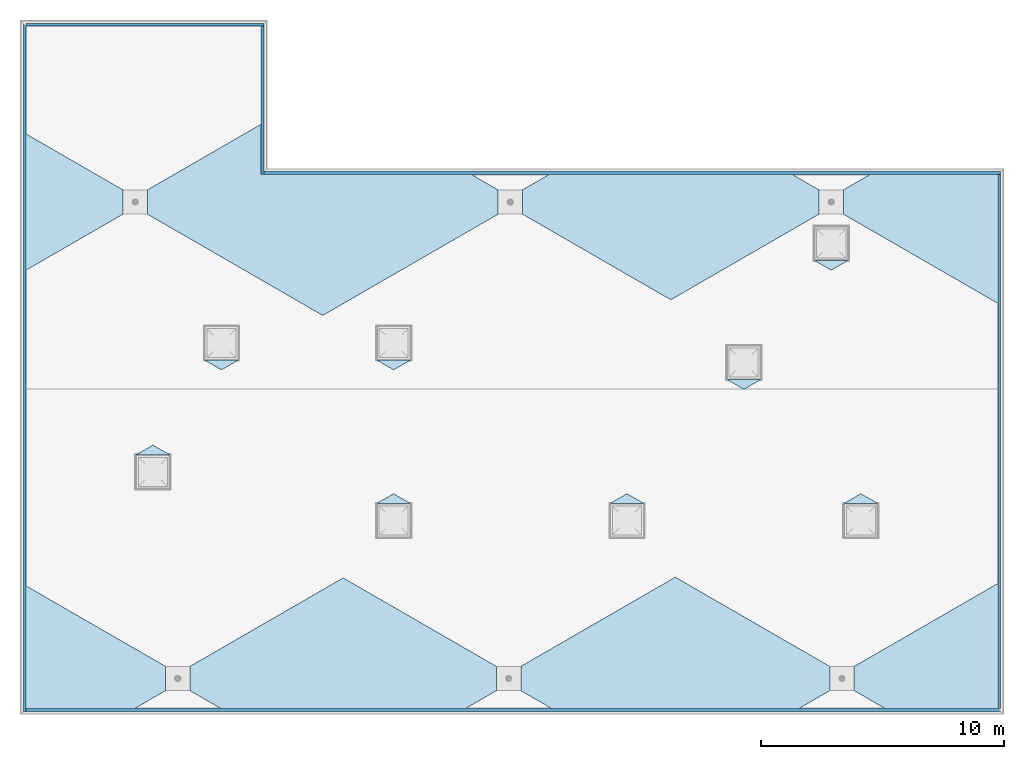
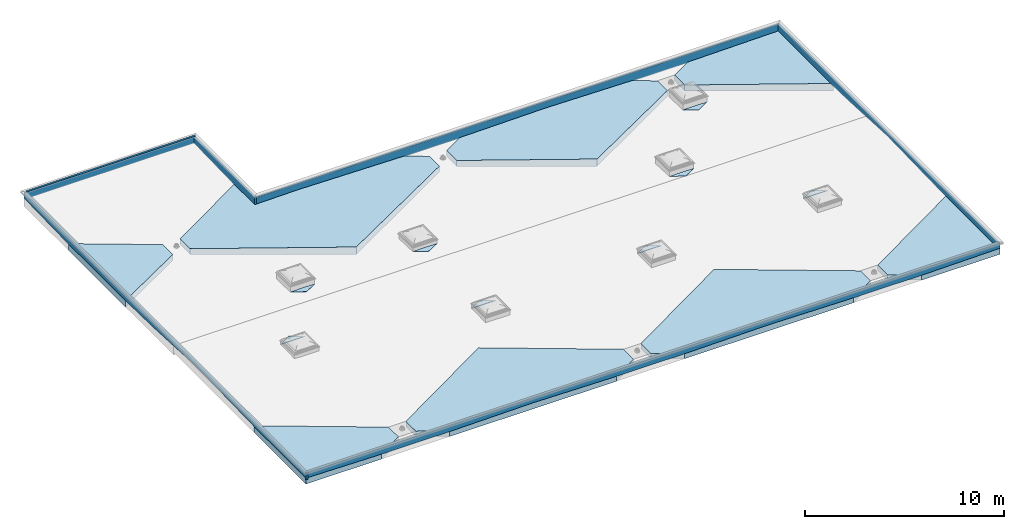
# One storey, part 1 of 5: 16 roofs, 6 walls, 6 openings.
"""IFC2X3 building model written with IfcOpenShell, lengths in millimetres."""

from ifc_helpers import new_model, entity, si_unit, converted_unit, derived_unit, direction, frame, frame_2d, origin, place, context, subcontext, project, spatial, polyline, rectangle, outline, extrude, clip, halfspace, faceted_brep, material, layer, layer_set, layer_usage, type_object, element, save


model = new_model("IFC2X3")

# Units and contexts
model_context = context("Model", 3, precision=0.01, world=origin(), true_north=direction((6.12303176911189e-17, 1.0)))
body_context = subcontext(model_context, "Body", "Model", "MODEL_VIEW")
ifc_project = project(units=[si_unit("LENGTHUNIT", "METRE", prefix="MILLI"), si_unit("AREAUNIT", "SQUARE_METRE"), si_unit("VOLUMEUNIT", "CUBIC_METRE"), converted_unit("PLANEANGLEUNIT", "DEGREE", entity("IfcRatioMeasure", 0.0174532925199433), si_unit("PLANEANGLEUNIT", "RADIAN"), dimensions=[0, 0, 0, 0, 0, 0, 0]), si_unit("MASSUNIT", "GRAM", prefix="KILO"), derived_unit("MASSDENSITYUNIT", [(si_unit("MASSUNIT", "GRAM", prefix="KILO"), 1), (si_unit("LENGTHUNIT", "METRE"), -3)]), si_unit("TIMEUNIT", "SECOND"), si_unit("FREQUENCYUNIT", "HERTZ"), si_unit("THERMODYNAMICTEMPERATUREUNIT", "DEGREE_CELSIUS"), derived_unit("THERMALTRANSMITTANCEUNIT", [(si_unit("MASSUNIT", "GRAM", prefix="KILO"), 1), (si_unit("THERMODYNAMICTEMPERATUREUNIT", "KELVIN"), -1), (si_unit("TIMEUNIT", "SECOND"), -3)]), derived_unit("VOLUMETRICFLOWRATEUNIT", [(si_unit("LENGTHUNIT", "METRE"), 3), (si_unit("TIMEUNIT", "SECOND"), -1)]), si_unit("ELECTRICCURRENTUNIT", "AMPERE"), si_unit("ELECTRICVOLTAGEUNIT", "VOLT"), si_unit("POWERUNIT", "WATT"), si_unit("FORCEUNIT", "NEWTON", prefix="KILO"), si_unit("ILLUMINANCEUNIT", "LUX"), si_unit("LUMINOUSFLUXUNIT", "LUMEN"), si_unit("LUMINOUSINTENSITYUNIT", "CANDELA"), derived_unit("USERDEFINED", [(si_unit("MASSUNIT", "GRAM", prefix="KILO"), -1), (si_unit("LENGTHUNIT", "METRE"), -2), (si_unit("TIMEUNIT", "SECOND"), 3), (si_unit("LUMINOUSFLUXUNIT", "LUMEN"), 1)]), derived_unit("LINEARVELOCITYUNIT", [(si_unit("LENGTHUNIT", "METRE"), 1), (si_unit("TIMEUNIT", "SECOND"), -1)]), si_unit("PRESSUREUNIT", "PASCAL"), derived_unit("USERDEFINED", [(si_unit("LENGTHUNIT", "METRE"), -2), (si_unit("MASSUNIT", "GRAM", prefix="KILO"), 1), (si_unit("TIMEUNIT", "SECOND"), -2)])], contexts=[model_context])

# Site, building, storey
site_placement = place(None, origin())
site = spatial("IfcSite", under=ifc_project, at=site_placement, Name="Default", CompositionType="ELEMENT")
building_placement = place(site_placement, origin())
building = spatial("IfcBuilding", under=site, at=building_placement, CompositionType="ELEMENT")
storey_placement = place(building_placement, frame((0.0, 0.0, 8000.0)))
storey = spatial("IfcBuildingStorey", under=building, at=storey_placement, Name="KATUS", CompositionType="ELEMENT", Elevation=8000.0)

# Wall, opening
ifc_material_1 = material(Name="pvc-katusekate")
ifc_layer_1 = layer(ifc_material_1, 5.0)
ifc_material_2 = material(Name="vineer niiskuskindel")
ifc_layer_2 = layer(ifc_material_2, 10.0)
ifc_material_3 = material(Name="EST. Sügavimmutatud puitroov. parapetid")
ifc_layer_3 = layer(ifc_material_3, 100.0)
ifc_layer_set = layer_set([ifc_layer_1, ifc_layer_2, ifc_layer_3], Name="Basic Wall:parapetid-B_roov100+vineer10")
ifc_layer_usage_1 = layer_usage(ifc_layer_set, "AXIS2", "POSITIVE", -57.5)
wall_type = type_object("IfcWallType", Name="Basic Wall:parapetid-B_roov100+vineer10", PredefinedType="STANDARD", material=ifc_layer_set)
wall_1_placement = place(storey_placement, frame((-292.499999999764, -350.0, 252.291072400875), z_axis=(0.0, 0.0, 1.0), x_axis=(0.0, 1.0, 0.0)))
wall_1 = element("IfcWallStandardCase", 1, at=wall_1_placement, inside=storey, type_object=wall_type, material=ifc_layer_usage_1, Name="Basic Wall:parapetid-B_roov100+vineer10", ObjectType="Basic Wall:parapetid-B_roov100+vineer10", context=body_context, shape_type="Clipping", body=[
    clip(clip(extrude(rectangle(XDim=28299.9994344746, YDim=115.0, at=frame_2d((14149.9997172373, -1.06581410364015e-14), x_axis=(-1.0, 0.0))), origin(), (0.0, 0.0, 1.0), 501.162816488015), halfspace(frame((0.0, -57.5, 447.708927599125), z_axis=(0.0, 0.0, 1.0), x_axis=(0.0, 1.0, 0.0)), False)), halfspace(frame((28299.9994344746, -57.5, 99.1457600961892), z_axis=(0.0249921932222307, 0.0, -0.999687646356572), x_axis=(0.0, 1.0, 0.0)), False)),
])
opening_1_placement = place(wall_1_placement, origin())
element("IfcOpeningElement", 2, at=opening_1_placement, cuts=wall_1, Name="Basic Wall:parapetid-B_roov100+vineer10", ObjectType="Opening", context=body_context, shape_type="SweptSolid", body=[
    extrude(outline(polyline([(-18.2859540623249, -8098.19364237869), (89.8979837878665, -8098.19364237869), (89.8979837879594, 9402.65765838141), (27.1393778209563, 6892.31341968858), (-170.363437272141, 2992.25776754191), (-18.2859540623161, -3090.84156085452), (-18.2859540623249, -8098.19364237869)])), frame((8155.69364237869, 57.4999999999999, 89.8979837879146), z_axis=(0.0, -1.0, 0.0), x_axis=(0.0, 0.0, -1.0)), (0.0, 0.0, 1.0), 115.0),
])

# Wall, openings
ifc_layer_usage_2 = layer_usage(ifc_layer_set, "AXIS2", "NEGATIVE", 57.5)
wall_2_placement = place(storey_placement, frame((-235.0, -292.499999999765, 297.586058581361)))
wall_2 = element("IfcWallStandardCase", 3, at=wall_2_placement, inside=storey, type_object=wall_type, material=ifc_layer_usage_2, Name="Basic Wall:parapetid-B_roov100+vineer10", ObjectType="Basic Wall:parapetid-B_roov100+vineer10", context=body_context, shape_type="Clipping", body=[
    clip(clip(clip(extrude(rectangle(XDim=40084.9999833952, YDim=115.0, at=frame_2d((20042.4999916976, -2.48689957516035e-14), x_axis=(-1.0, 0.0))), origin(), (0.0, 0.0, 1.0), 455.867830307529), halfspace(frame((0.0, -57.5, 402.413941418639), z_axis=(0.0, 0.0, 1.0), x_axis=(0.0, 1.0, 0.0)), False)), halfspace(frame((40085.0, -57.5, 70.8421873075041), z_axis=(0.0146451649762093, 0.0, -0.999892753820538), x_axis=(0.0, 1.0, 0.0)), False)), halfspace(frame((4535.0, -57.5, 0.0), z_axis=(-0.0142382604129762, 0.0, -0.999898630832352), x_axis=(0.0, 1.0, 0.0)), False)),
])
opening_2_placement = place(wall_2_placement, origin())
element("IfcOpeningElement", 4, at=opening_2_placement, cuts=wall_2, Name="Basic Wall:parapetid-B_roov100+vineer10", ObjectType="Opening", context=body_context, shape_type="SweptSolid", body=[
    extrude(outline(polyline([(-5162.15256840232, -49.4510402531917), (10.8824537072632, -49.4510402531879), (5151.27011469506, 98.9020805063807), (-5162.15256840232, -49.4510402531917)])), frame((26712.6701534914, 57.5, 24.8012235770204), z_axis=(0.0, -1.0, 0.0), x_axis=(-0.99989655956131, 0.0, 0.014382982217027)), (0.0, 0.0, 1.0), 115.0),
])
opening_3_placement = place(wall_2_placement, origin())
element("IfcOpeningElement", 5, at=opening_3_placement, cuts=wall_2, Name="Basic Wall:parapetid-B_roov100+vineer10", ObjectType="Opening", context=body_context, shape_type="SweptSolid", body=[
    extrude(outline(polyline([(-5116.38891380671, -49.5889663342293), (1.28442557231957, -49.5889663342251), (5115.10448823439, 99.1779326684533), (-5116.38891380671, -49.5889663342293)])), frame((13040.5632594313, 57.5, 24.8011994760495), z_axis=(0.0, -1.0, 0.0), x_axis=(-0.999894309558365, 0.0, 0.0145385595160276)), (0.0, 0.0, 1.0), 115.0),
])

# Walls
ifc_layer_usage_3 = layer_usage(ifc_layer_set, "AXIS2", "NEGATIVE", 57.5)
wall_3_placement = place(storey_placement, frame((9550.0, 27892.4994344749, 348.561832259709), z_axis=(0.0, 0.0, 1.0), x_axis=(-1.0, 0.0, 0.0)))
element("IfcWallStandardCase", 6, at=wall_3_placement, inside=storey, type_object=wall_type, material=ifc_layer_usage_3, Name="Basic Wall:parapetid-B_roov100+vineer10", ObjectType="Basic Wall:parapetid-B_roov100+vineer10", context=body_context, shape_type="SweptSolid", body=[
    extrude(rectangle(XDim=9784.9999999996, YDim=115.0, at=frame_2d((4892.4999999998, 5.04485342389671e-13), x_axis=(-1.0, 0.0))), origin(), (0.0, 0.0, 1.0), 404.892056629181),
])
ifc_layer_usage_4 = layer_usage(ifc_layer_set, "AXIS2", "POSITIVE", -57.5)
wall_4_placement = place(storey_placement, frame((9492.49999999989, 27834.9994344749, 230.174469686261), z_axis=(0.0, 0.0, 1.0), x_axis=(0.0, -1.0, 0.0)))
element("IfcWallStandardCase", 7, at=wall_4_placement, inside=storey, type_object=wall_type, material=ifc_layer_usage_4, Name="Basic Wall:parapetid-B_roov100+vineer10", ObjectType="Basic Wall:parapetid-B_roov100+vineer10", context=body_context, shape_type="Clipping", body=[
    clip(clip(extrude(rectangle(XDim=6099.9994344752, YDim=115.0, at=frame_2d((3049.9997172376, 2.23820961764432e-13), x_axis=(-1.0, 0.0))), origin(), (0.0, 0.0, 1.0), 523.279419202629), halfspace(frame((0.0, -57.5, 469.825530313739), z_axis=(0.0, 0.0, 1.0), x_axis=(0.0, 1.0, 0.0)), False)), halfspace(frame((4727.52089077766, -57.5, 0.0), z_axis=(-0.0249921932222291, 0.0, -0.999687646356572), x_axis=(0.0, 1.0, 0.0)), False)),
])

# Wall, openings
ifc_layer_usage_5 = layer_usage(ifc_layer_set, "AXIS2", "NEGATIVE", 57.5)
wall_5_placement = place(storey_placement, frame((39850.0, 21792.5, 186.652583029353), z_axis=(0.0, 0.0, 1.0), x_axis=(-1.0, 0.0, 0.0)))
wall_5 = element("IfcWallStandardCase", 8, at=wall_5_placement, inside=storey, type_object=wall_type, material=ifc_layer_usage_5, Name="Basic Wall:parapetid-B_roov100+vineer10", ObjectType="Basic Wall:parapetid-B_roov100+vineer10", context=body_context, shape_type="Clipping", body=[
    clip(clip(extrude(rectangle(XDim=30299.9999833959, YDim=115.0, at=frame_2d((15149.999991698, 7.069900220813e-13), x_axis=(-1.0, 0.0))), origin(), (0.0, 0.0, 1.0), 566.801305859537), halfspace(frame((0.0, -57.4999999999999, 513.347416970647), z_axis=(0.0, 0.0, 1.0), x_axis=(0.0, 1.0, 0.0)), False)), halfspace(frame((5563.36677469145, -57.4999999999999, 0.0), z_axis=(-0.0144383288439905, 0.0, -0.999895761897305), x_axis=(0.0, 1.0, 0.0)), False)),
])
opening_4_placement = place(wall_5_placement, origin())
element("IfcOpeningElement", 9, at=opening_4_placement, cuts=wall_5, Name="Basic Wall:parapetid-B_roov100+vineer10", ObjectType="Opening", context=body_context, shape_type="SweptSolid", body=[
    extrude(outline(polyline([(-5475.98049316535, -28.9490080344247), (5596.39449996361, -28.9490080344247), (-120.414006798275, 57.8980160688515), (-5475.98049316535, -28.9490080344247)])), frame((13360.1603517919, 57.5000000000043, 28.9490080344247), z_axis=(0.0, -1.0, 0.0), x_axis=(1.0, 0.0, 0.0)), (0.0, 0.0, 1.0), 115.0),
])
opening_5_placement = place(wall_5_placement, origin())
element("IfcOpeningElement", 10, at=opening_5_placement, cuts=wall_5, Name="Basic Wall:parapetid-B_roov100+vineer10", ObjectType="Opening", context=body_context, shape_type="SweptSolid", body=[
    extrude(outline(polyline([(-5931.25001336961, -34.1452400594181), (2976.24998663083, -34.1452400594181), (2976.24998663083, 12.5040969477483), (-21.2499598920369, 55.7863831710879), (-5931.25001336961, -34.1452400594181)])), frame((27381.2499967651, 57.4999999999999, 34.1452400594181), z_axis=(0.0, -1.0, 0.0), x_axis=(1.0, 0.0, 0.0)), (0.0, 0.0, 1.0), 115.0),
])

# Wall, opening
ifc_layer_usage_6 = layer_usage(ifc_layer_set, "AXIS2", "POSITIVE", -57.5)
wall_6_placement = place(storey_placement, frame((39792.4999833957, 21735.0, 264.93052108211), z_axis=(0.0, 0.0, 1.0), x_axis=(0.0, -1.0, 0.0)))
wall_6 = element("IfcWallStandardCase", 11, at=wall_6_placement, inside=storey, type_object=wall_type, material=ifc_layer_usage_6, Name="Basic Wall:parapetid-B_roov100+vineer10", ObjectType="Basic Wall:parapetid-B_roov100+vineer10", context=body_context, shape_type="Clipping", body=[
    clip(extrude(rectangle(XDim=21969.9999999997, YDim=115.000000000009, at=frame_2d((10984.9999999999, 2.18847162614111e-12), x_axis=(-1.0, 0.0))), origin(), (0.0, 0.0, 1.0), 488.52336780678), halfspace(frame((0.0, -57.4999999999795, 435.06947891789), z_axis=(0.0, 0.0, 1.0), x_axis=(0.0, 1.0, 0.0)), False)),
])
opening_6_placement = place(wall_6_placement, origin())
element("IfcOpeningElement", 12, at=opening_6_placement, cuts=wall_6, Name="Basic Wall:parapetid-B_roov100+vineer10", ObjectType="Opening", context=body_context, shape_type="SweptSolid", body=[
    extrude(outline(polyline([(-9004.75896274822, -82.272573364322), (8052.74103725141, -82.272573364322), (8052.74103725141, 16.2489701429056), (2921.65853177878, 16.2489701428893), (-3040.7586503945, 165.309399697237), (-6981.62299313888, -33.2621932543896), (-9004.75896274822, -82.272573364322)])), frame((13974.7589627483, 57.499999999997, 82.272573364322), z_axis=(0.0, -1.0, 0.0), x_axis=(1.0, 0.0, 0.0)), (0.0, 0.0, 1.0), 115.0),
])

# Roofs
ifc_material_4 = material(Name="Soojusisolatsioon EPS")
roof_1_placement = place(storey_placement, frame((-350.000062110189, 17732.8638599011, -135.0)))
element("IfcRoof", 13, at=roof_1_placement, inside=storey, material=ifc_material_4, Name="Basic Roof:KL-1", ObjectType="Basic Roof:KL-1", ShapeType="NOTDEFINED", context=body_context, shape_type="Brep", body=[
    faceted_brep([(4100.0, 3367.13610367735, 0.0), (4100.0, 2367.1361036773, 0.0), (0.0, 0.0, 0.0), (0.0, 5734.27220735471, 0.0), (4100.0, 2367.1361036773, 355.0), (4100.0, 3367.13610367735, 355.0), (0.0, 5734.27220735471, 414.0), (0.0, 0.0, 414.0)], [[[0, 1, 2, 3]], [[4, 1, 0, 5]], [[6, 3, 2, 7]], [[5, 0, 3, 6]], [[5, 6, 7, 4]], [[7, 2, 1, 4]]]),
])
roof_2_placement = place(storey_placement, frame((4750.0, 15934.4178318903, -135.0)))
element("IfcRoof", 14, at=roof_2_placement, inside=storey, material=ifc_material_4, Name="Basic Roof:KL-1", ObjectType="Basic Roof:KL-1", ShapeType="NOTDEFINED", context=body_context, shape_type="Brep", body=[
    faceted_brep([(0.0, 4165.58219220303, 0.0), (0.0, 5165.58219220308, 0.0), (4800.0, 7936.86348431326, 0.0), (4800.0, 5915.58216810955, 0.0), (13130.9619360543, 5915.58216810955, 0.0), (14430.0, 5165.58219220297, 0.0), (14430.0, 4165.58219220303, 0.0), (7215.0, 0.0, 0.0), (0.0, 4165.58219220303, 355.0), (0.0, 5165.58219220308, 355.0), (4800.0, 7936.86348431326, 424.521829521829), (7215.0, 0.0, 459.500000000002), (14430.0, 5165.58219220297, 355.0), (14430.0, 4165.58219220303, 355.0), (13130.9619360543, 5915.58216810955, 373.814896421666), (7215.0, 5915.58216810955, 459.500000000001), (4800.0, 5915.58216810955, 424.521829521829)], [[[0, 1, 2, 3, 4, 5, 6, 7]], [[1, 0, 8, 9]], [[1, 9, 10, 2]], [[8, 0, 7, 11]], [[6, 5, 12, 13]], [[12, 5, 4, 14]], [[7, 6, 13, 11]], [[9, 8, 11, 15, 16, 10]], [[11, 13, 12, 14, 15]], [[16, 3, 2, 10]], [[3, 16, 15, 14, 4]]]),
])
roof_3_placement = place(storey_placement, frame((20180.0, 16578.1633630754, -135.0)))
element("IfcRoof", 15, at=roof_3_placement, inside=storey, material=ifc_material_4, Name="Basic Roof:KL-1", ObjectType="Basic Roof:KL-1", ShapeType="NOTDEFINED", context=body_context, shape_type="Brep", body=[
    faceted_brep([(12200.0, 4521.83663692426, 0.0), (12200.0, 3521.83663665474, 0.0), (6100.0, 0.0, 0.0), (0.0, 3521.83663665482, 0.0), (0.0, 4521.8366369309, 0.0), (1299.03810566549, 5271.83663692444, 0.0), (10900.9618760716, 5271.83663692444, 0.0), (12200.0, 4521.83663692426, 355.0), (12200.0, 3521.83663665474, 355.0), (10900.9618760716, 5271.83663692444, 373.740221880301), (6100.0, 0.0, 443.0), (0.0, 3521.83663665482, 355.0), (0.0, 4521.8366369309, 355.0), (1299.03810566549, 5271.83663692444, 373.740221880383), (6100.0, 5271.83663692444, 443.0)], [[[0, 1, 2, 3, 4, 5, 6]], [[1, 0, 7, 8]], [[7, 0, 6, 9]], [[1, 8, 10, 2]], [[4, 3, 11, 12]], [[4, 12, 13, 5]], [[3, 2, 10, 11]], [[8, 7, 9, 14, 10]], [[11, 10, 14, 13, 12]], [[6, 5, 13, 14, 9]]]),
])
roof_4_placement = place(storey_placement, frame((33380.0, 16364.5437583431, -135.0)))
element("IfcRoof", 16, at=roof_4_placement, inside=storey, material=ifc_material_4, Name="Basic Roof:KL-1", ObjectType="Basic Roof:KL-1", ShapeType="NOTDEFINED", context=body_context, shape_type="Brep", body=[
    faceted_brep([(0.0, 3735.45624165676, 0.0), (0.0, 4735.45624165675, 0.0), (1299.03810567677, 5485.45624165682, 0.0), (6470.0, 5485.45624165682, 0.0), (6470.0, 0.0, 0.0), (0.0, 3735.45624165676, 355.0), (0.0, 4735.45624165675, 355.0), (1299.03810567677, 5485.45624165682, 373.67241790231), (6470.0, 0.0, 448.0), (6470.0, 5485.45624165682, 448.0)], [[[0, 1, 2, 3, 4]], [[1, 0, 5, 6]], [[1, 6, 7, 2]], [[5, 0, 4, 8]], [[8, 4, 3, 9]], [[6, 5, 8, 9, 7]], [[3, 2, 7, 9]]]),
])
roof_5_placement = place(storey_placement, frame((-350.0, -350.0, 0.0)))
element("IfcRoof", 17, at=roof_5_placement, inside=storey, material=ifc_material_4, Name="Basic Roof:KL-2", ObjectType="Basic Roof:KL-2", ShapeType="NOTDEFINED", context=body_context, shape_type="Brep", body=[
    faceted_brep([(0.0, 5227.49907475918, 0.0), (5850.0, 1850.0, 0.0), (5850.0, 850.0, 0.0), (4377.75681356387, 0.0, 0.0), (0.0, 0.0, 0.0), (5850.00001743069, 1850.0, 320.001207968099), (5849.9999607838, 849.999977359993, 319.996376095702), (1.30766384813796e-05, 5227.49906720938, 404.438686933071), (1.74321488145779e-05, 0.0, 404.413423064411), (5850.0, 1850.0, 320.001207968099), (4377.75677879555, 9.341867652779e-08, 341.238160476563), (5849.9999477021, 850.0, 319.996376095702), (4377.75681356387, 0.0, 341.238160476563), (0.0, 0.0, 404.413423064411)], [[[0, 1, 2, 3, 4]], [[2, 1, 5, 6]], [[7, 0, 4, 8]], [[1, 0, 7, 9]], [[5, 7, 8, 10, 11]], [[2, 11, 12, 3]], [[4, 3, 10, 13]]]),
])
roof_6_placement = place(storey_placement, frame((6499.99997041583, -350.0, 0.0)))
element("IfcRoof", 18, at=roof_6_placement, inside=storey, material=ifc_material_4, Name="Basic Roof:KL-2", ObjectType="Basic Roof:KL-2", ShapeType="NOTDEFINED", context=body_context, shape_type="Brep", body=[
    faceted_brep([(2.9585444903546e-05, 1850.0, 0.0), (6305.00002958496, 5490.19344724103, 0.0), (12610.0000295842, 1850.0, 0.0), (12610.0000295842, 850.0, 0.0), (11137.7568431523, 0.0, 0.0), (1472.24321601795, 0.0, 0.0), (2.95854427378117e-05, 850.0, 0.0), (0.0, 850.0, 320.002027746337), (0.0, 1850.0, 320.002027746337), (12610.0000295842, 1850.0, 319.999265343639), (12610.0000331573, 850.0, 320.000244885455), (6305.0000322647, 5490.19344569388, 411.992132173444), (2.95854438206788e-05, 850.0, 320.002027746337), (1472.24321601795, 0.0, 341.482508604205), (11137.7568431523, 0.0, 341.482619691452), (6305.00007846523, 0.0, 411.993916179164), (6305.0, 5490.19344724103, 411.993915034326), (6305.00003315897, 2.29328923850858e-07, 411.99751119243)], [[[0, 1, 2, 3, 4, 5, 6]], [[0, 6, 7, 8]], [[3, 2, 9, 10]], [[1, 0, 8, 11]], [[12, 6, 5, 13]], [[5, 4, 14, 15, 13]], [[9, 2, 1, 11]], [[3, 10, 14, 4]], [[8, 7, 13, 15, 16]], [[10, 9, 16, 17, 14]]]),
])
roof_7_placement = place(storey_placement, frame((20110.0, -350.0, 0.0)))
element("IfcRoof", 19, at=roof_7_placement, inside=storey, material=ifc_material_4, Name="Basic Roof:KL-2", ObjectType="Basic Roof:KL-2", ShapeType="NOTDEFINED", context=body_context, shape_type="Brep", body=[
    faceted_brep([(2.93412291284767e-05, 1850.0, 0.0), (6357.50002934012, 5520.50433637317, 0.0), (12715.0000293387, 1850.0, 0.0), (12715.0000293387, 850.0, 0.0), (11242.7568429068, 0.0, 0.0), (1472.2432157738, 0.0, 0.0), (2.93412291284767e-05, 850.0, 0.0), (2.93412291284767e-05, 850.0, 320.002027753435), (0.0, 1850.0, 320.002027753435), (12715.0000293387, 1850.0, 319.999270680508), (12715.0000328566, 850.0, 320.000243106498), (6357.50003197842, 5520.50433484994, 411.992130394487), (1472.2432157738, 0.0, 341.305123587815), (11242.7568464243, 0.0, 341.305217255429), (6357.50007767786, 0.0, 411.993916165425), (6357.49999999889, 5520.50433637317, 411.993915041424), (6357.50003285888, 6.18945193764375e-08, 411.997499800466)], [[[0, 1, 2, 3, 4, 5, 6]], [[0, 6, 7, 8]], [[3, 2, 9, 10]], [[1, 0, 8, 11]], [[7, 6, 5, 12]], [[9, 2, 1, 11]], [[3, 10, 13, 4]], [[8, 7, 12, 14, 15]], [[10, 9, 15, 16, 13]], [[5, 4, 13, 14, 12]]]),
])
roof_8_placement = place(storey_placement, frame((33825.0, -350.0, 0.0)))
element("IfcRoof", 20, at=roof_8_placement, inside=storey, material=ifc_material_4, Name="Basic Roof:KL-2", ObjectType="Basic Roof:KL-2", ShapeType="NOTDEFINED", context=body_context, shape_type="Brep", body=[
    faceted_brep([(1.66042990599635e-05, 1850.0, 0.0), (1.66042903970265e-05, 850.0, 0.0), (1.66042903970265e-05, 850.0, 320.001150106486), (6.64171745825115e-05, 1850.0, 319.99654968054), (6025.0, 5328.535371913, 406.964536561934), (6025.00001660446, 5328.5353719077, 0.0), (1472.2432030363, 3.91080847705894e-08, 0.0), (1472.2432030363, 3.91080847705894e-08, 341.26009736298), (6025.00001660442, 3.91080170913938e-08, 0.0), (6025.0, 3.91085585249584e-08, 406.989055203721)], [[[0, 1, 2, 3]], [[0, 3, 4, 5]], [[2, 1, 6, 7]], [[1, 0, 5, 8, 6]], [[5, 4, 9, 8]], [[3, 2, 7, 9, 4]], [[7, 6, 8, 9]]]),
])
ifc_material_5 = material(Name="Soojusisolatsioon jäik mineraalvill")
roof_9_placement = place(storey_placement, frame((7100.00016692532, 13696.654907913, 367.246856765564)))
element("IfcRoof", 21, at=roof_9_placement, inside=storey, material=ifc_material_5, Name="Basic Roof:KL-1 vastukalded", ObjectType="Basic Roof:KL-1 vastukalded", ShapeType="NOTDEFINED", context=body_context, shape_type="Brep", body=[
    faceted_brep([(699.999833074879, 0.0, 0.0), (0.0, 404.145092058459, 0.0), (1399.99966614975, 404.145092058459, 0.0), (0.0, 404.145092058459, 19.8193729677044), (699.999833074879, 0.0, 40.0), (1399.99966614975, 404.145092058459, 19.8193729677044), (699.99983307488, 404.145092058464, 40.0)], [[[0, 1, 2]], [[3, 1, 0, 4]], [[4, 0, 2, 5]], [[5, 2, 1, 3, 6]], [[4, 5, 6]], [[4, 6, 3]]]),
])
roof_10_placement = place(storey_placement, frame((14179.9979939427, 13695.9047175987, 365.017706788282)))
element("IfcRoof", 22, at=roof_10_placement, inside=storey, material=ifc_material_5, Name="Basic Roof:KL-1 vastukalded", ObjectType="Basic Roof:KL-1 vastukalded", ShapeType="NOTDEFINED", context=body_context, shape_type="Brep", body=[
    faceted_brep([(699.999833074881, 0.0, 0.0), (0.0, 404.145092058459, 0.0), (1399.99966614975, 404.145092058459, 0.0), (0.0, 404.145092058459, 19.8193729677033), (699.999833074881, 0.0, 40.0), (1399.99966614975, 404.145092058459, 19.8193729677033), (699.999833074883, 404.145092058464, 40.0)], [[[0, 1, 2]], [[3, 1, 0, 4]], [[4, 0, 2, 5]], [[5, 2, 1, 3, 6]], [[4, 5, 6]], [[4, 6, 3]]]),
])
roof_11_placement = place(storey_placement, frame((28589.9234568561, 12895.9047175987, 405.017706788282)))
element("IfcRoof", 23, at=roof_11_placement, inside=storey, material=ifc_material_5, Name="Basic Roof:KL-1 vastukalded", ObjectType="Basic Roof:KL-1 vastukalded", ShapeType="NOTDEFINED", context=body_context, shape_type="Brep", body=[
    faceted_brep([(699.999833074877, 0.0, 0.0), (0.0, 404.145092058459, 0.0), (1399.99966614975, 404.145092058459, 0.0), (0.0, 404.145092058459, 19.8193729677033), (699.999833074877, 0.0, 40.0), (1399.99966614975, 404.145092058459, 19.8193729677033), (699.999833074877, 404.145092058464, 40.0)], [[[0, 1, 2]], [[3, 1, 0, 4]], [[4, 0, 2, 5]], [[5, 2, 1, 3, 6]], [[4, 5, 6]], [[4, 6, 3]]]),
])
roof_12_placement = place(storey_placement, frame((14179.9979939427, 8200.04980965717, 457.604872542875)))
element("IfcRoof", 24, at=roof_12_placement, inside=storey, material=ifc_material_5, Name="Basic Roof:KL-1 vastukalded", ObjectType="Basic Roof:KL-1 vastukalded", ShapeType="NOTDEFINED", context=body_context, shape_type="Brep", body=[
    faceted_brep([(0.0, 0.0, 0.0), (699.999833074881, 404.145092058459, 0.0), (1399.99966614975, 0.0, 0.0), (699.999833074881, 404.145092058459, 40.0), (0.0, 0.0, 29.8723876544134), (1399.99966614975, 0.0, 29.8723876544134), (699.999833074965, 0.0, 40.0)], [[[0, 1, 2]], [[3, 1, 0, 4]], [[5, 2, 1, 3]], [[4, 0, 2, 5, 6]], [[5, 3, 6]], [[6, 3, 4]]]),
])
roof_13_placement = place(storey_placement, frame((23779.9979939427, 8200.04980965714, 457.604872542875)))
element("IfcRoof", 25, at=roof_13_placement, inside=storey, material=ifc_material_5, Name="Basic Roof:KL-1 vastukalded", ObjectType="Basic Roof:KL-1 vastukalded", ShapeType="NOTDEFINED", context=body_context, shape_type="Brep", body=[
    faceted_brep([(0.0, 0.0, 0.0), (699.999833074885, 404.145092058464, 0.0), (1399.99966614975, 0.0, 0.0), (699.999833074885, 404.145092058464, 40.0), (0.0, 0.0, 29.8723876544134), (1399.99966614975, 0.0, 29.8723876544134), (699.999833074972, 0.0, 40.0)], [[[0, 1, 2]], [[3, 1, 0, 4]], [[5, 2, 1, 3]], [[4, 0, 2, 5, 6]], [[5, 3, 6]], [[6, 3, 4]]]),
])
roof_14_placement = place(storey_placement, frame((33399.9879939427, 8200.04980965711, 457.604872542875)))
element("IfcRoof", 26, at=roof_14_placement, inside=storey, material=ifc_material_5, Name="Basic Roof:KL-1 vastukalded", ObjectType="Basic Roof:KL-1 vastukalded", ShapeType="NOTDEFINED", context=body_context, shape_type="Brep", body=[
    faceted_brep([(0.0, 0.0, 0.0), (699.999833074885, 404.145092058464, 0.0), (1399.99966614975, 0.0, 0.0), (699.999833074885, 404.145092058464, 40.0), (0.0, 0.0, 29.8723876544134), (1399.99966614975, 0.0, 29.8723876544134), (699.999833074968, 0.0, 40.0)], [[[0, 1, 2]], [[3, 1, 0, 4]], [[5, 2, 1, 3]], [[4, 0, 2, 5, 6]], [[5, 3, 6]], [[6, 3, 4]]]),
])
roof_15_placement = place(storey_placement, frame((32179.9979939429, 17795.8549079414, 237.595980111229)))
element("IfcRoof", 27, at=roof_15_placement, inside=storey, material=ifc_material_5, Name="Basic Roof:KL-1 vastukalded", ObjectType="Basic Roof:KL-1 vastukalded", ShapeType="NOTDEFINED", context=body_context, shape_type="Brep", body=[
    faceted_brep([(699.999833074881, 0.0, 0.0), (0.0, 404.145092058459, 0.0), (1399.99966614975, 404.145092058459, 0.0), (0.0, 404.145092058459, 29.8723876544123), (699.999833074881, 0.0, 40.0), (1399.99966614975, 404.145092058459, 29.8723876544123), (699.999833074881, 404.145092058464, 40.0)], [[[0, 1, 2]], [[3, 1, 0, 4]], [[4, 0, 2, 5]], [[5, 2, 1, 3, 6]], [[4, 5, 6]], [[4, 6, 3]]]),
])
roof_16_placement = place(storey_placement, frame((4280.00016692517, 10200.0498096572, 507.604872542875)))
element("IfcRoof", 28, at=roof_16_placement, inside=storey, material=ifc_material_5, Name="Basic Roof:KL-1 vastukalded", ObjectType="Basic Roof:KL-1 vastukalded", ShapeType="NOTDEFINED", context=body_context, shape_type="Brep", body=[
    faceted_brep([(0.0, 0.0, 0.0), (699.999833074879, 404.145092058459, 0.0), (1399.99966614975, 0.0, 0.0), (699.999833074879, 404.145092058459, 40.0), (0.0, 0.0, 29.8723876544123), (1399.99966614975, 0.0, 29.8723876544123), (699.999833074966, 0.0, 40.0)], [[[0, 1, 2]], [[3, 1, 0, 4]], [[5, 2, 1, 3]], [[4, 0, 2, 5, 6]], [[5, 3, 6]], [[6, 3, 4]]]),
])

save(model, "model.ifc")
